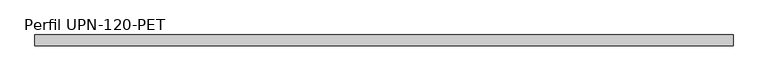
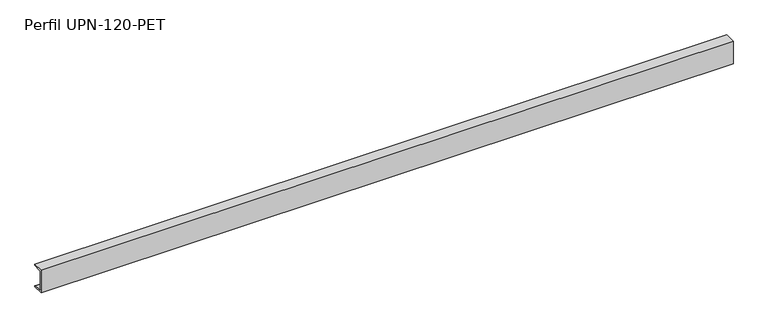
"""IFC4 building model written with IfcOpenShell, lengths in millimetres: beam geometry, ARES-I-AC-UPN-Perfil acero-PET : Perfil UPN-120-PET."""

from ifc_helpers import new_model, si_unit, point, frame, frame_2d, origin, place, context, project, spatial, polyline, circle_curve, trimmed, segment, composite_curve, outline, extrude, source, transform, mapped, element, save


def perfil_upn_120_pet_2a6b5f43(model_context):
    return source(origin(), model_context, "Body", "SweptSolid", [
        extrude(outline(composite_curve([segment(polyline([(-16.0, 60.0), (39.0, 60.0), (39.0, 57.354377)]), True, "CONTINUOUS"), segment(trimmed(circle_curve(frame_2d((34.5, 57.354377)), 4.5), [point((39.0, 57.354377))], [point((34.8588535, 52.8687083))], False, "CARTESIAN"), True, "CONTINUOUS"), segment(polyline([(34.8588535, 52.8687083), (-0.717707, 50.0225834)]), True, "CONTINUOUS"), segment(trimmed(circle_curve(frame_2d((0.0, 41.0512459)), 9.0), [point((-0.717707, 50.0225834))], [point((-9.0, 41.0512459))], True, "CARTESIAN"), True, "CONTINUOUS"), segment(polyline([(-9.0, 41.0512459), (-9.0, -41.0512459)]), True, "CONTINUOUS"), segment(trimmed(circle_curve(frame_2d((0.0, -41.0512459)), 9.0), [point((-9.0, -41.0512459))], [point((-0.717707, -50.0225834))], True, "CARTESIAN"), True, "CONTINUOUS"), segment(polyline([(-0.717707, -50.0225834), (34.8588535, -52.8687083)]), True, "CONTINUOUS"), segment(trimmed(circle_curve(frame_2d((34.5, -57.354377)), 4.5), [point((34.8588535, -52.8687083))], [point((39.0, -57.354377))], False, "CARTESIAN"), True, "CONTINUOUS"), segment(polyline([(39.0, -57.354377), (39.0, -60.0), (-16.0, -60.0), (-16.0, 60.0)]), True, "CONTINUOUS")], self_intersect=False)), frame((-1734.0, 0.0, 0.0), z_axis=(1.0, 0.0, 0.0), x_axis=(0.0, 1.0, 0.0)), (0.0, 0.0, 1.0), 3468.0),
    ])


if __name__ == "__main__":
    model = new_model("IFC4")
    model_context = context("Model", 3, world=origin())
    ifc_project = project(units=[si_unit("LENGTHUNIT", "METRE", prefix="MILLI")], contexts=[model_context])
    site = spatial("IfcSite", under=ifc_project)
    building = spatial("IfcBuilding", under=site)
    placement = place(None, origin())
    perfil_upn_120_pet_shape = perfil_upn_120_pet_2a6b5f43(model_context)
    element("IfcBeam", 1, ObjectType="ARES-I-AC-UPN-Perfil acero-PET : Perfil UPN-120-PET", at=placement, inside=building, context=model_context, shape_type="MappedRepresentation", body=[
        mapped(perfil_upn_120_pet_shape, transform((0.0, 0.0, 0.0), x_axis=(1.0, 0.0, 0.0), y_axis=(0.0, 1.0, 0.0), z_axis=(0.0, 0.0, 1.0))),
    ])
    save(model, "model.ifc")
